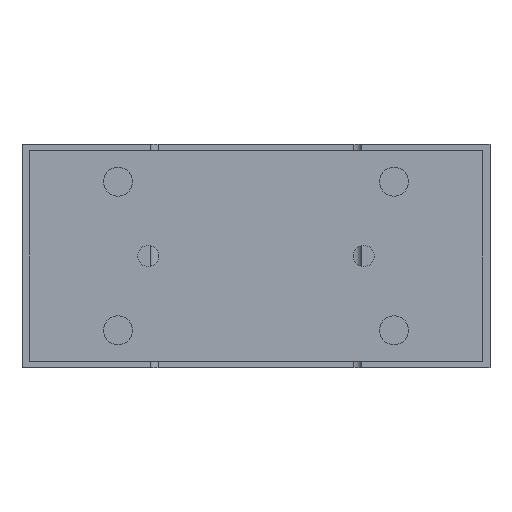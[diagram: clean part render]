
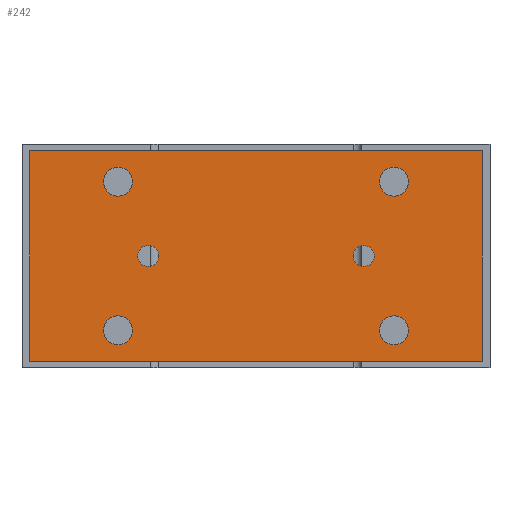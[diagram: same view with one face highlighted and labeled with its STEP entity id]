
A CAD part, left-side view. The second image highlights one B-rep face of the part: STEP entity #242.
In plain terms, the highlighted planar face has unit normal (-1, 0, 0).
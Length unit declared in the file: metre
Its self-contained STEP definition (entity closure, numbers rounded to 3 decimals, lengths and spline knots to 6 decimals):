
#242 = ADVANCED_FACE( '', ( #681, #682, #683, #684, #685, #686, #687 ), #688, .T. );
#681 = FACE_BOUND( '', #1481, .T. );
#682 = FACE_BOUND( '', #1482, .T. );
#683 = FACE_BOUND( '', #1483, .T. );
#684 = FACE_BOUND( '', #1484, .T. );
#685 = FACE_BOUND( '', #1485, .T. );
#686 = FACE_BOUND( '', #1486, .T. );
#687 = FACE_OUTER_BOUND( '', #1487, .T. );
#688 = PLANE( '', #1488 );
#1481 = EDGE_LOOP( '', ( #2269 ) );
#1482 = EDGE_LOOP( '', ( #2270 ) );
#1483 = EDGE_LOOP( '', ( #2271 ) );
#1484 = EDGE_LOOP( '', ( #2272 ) );
#1485 = EDGE_LOOP( '', ( #2273 ) );
#1486 = EDGE_LOOP( '', ( #2274 ) );
#1487 = EDGE_LOOP( '', ( #2275, #2276, #2277, #2278 ) );
#1488 = AXIS2_PLACEMENT_3D( '', #2279, #2280, #2281 );
#2269 = ORIENTED_EDGE( '', *, *, #3807, .F. );
#2270 = ORIENTED_EDGE( '', *, *, #3808, .F. );
#2271 = ORIENTED_EDGE( '', *, *, #3809, .F. );
#2272 = ORIENTED_EDGE( '', *, *, #3810, .F. );
#2273 = ORIENTED_EDGE( '', *, *, #3811, .F. );
#2274 = ORIENTED_EDGE( '', *, *, #3812, .T. );
#2275 = ORIENTED_EDGE( '', *, *, #3813, .T. );
#2276 = ORIENTED_EDGE( '', *, *, #3814, .T. );
#2277 = ORIENTED_EDGE( '', *, *, #3815, .T. );
#2278 = ORIENTED_EDGE( '', *, *, #3816, .T. );
#2279 = CARTESIAN_POINT( '', ( -0.118, -0.086, -0.0025 ) );
#2280 = DIRECTION( '', ( -1., 0., 0. ) );
#2281 = DIRECTION( '', ( 0., 0., 1. ) );
#3807 = EDGE_CURVE( '', #4370, #4370, #4371, .T. );
#3808 = EDGE_CURVE( '', #4372, #4372, #4373, .T. );
#3809 = EDGE_CURVE( '', #4374, #4374, #4375, .T. );
#3810 = EDGE_CURVE( '', #4376, #4376, #4377, .T. );
#3811 = EDGE_CURVE( '', #4378, #4378, #4379, .T. );
#3812 = EDGE_CURVE( '', #4380, #4380, #4381, .T. );
#3813 = EDGE_CURVE( '', #4382, #4383, #4384, .T. );
#3814 = EDGE_CURVE( '', #4383, #4385, #4386, .T. );
#3815 = EDGE_CURVE( '', #4385, #4387, #4388, .T. );
#3816 = EDGE_CURVE( '', #4387, #4382, #4389, .T. );
#4370 = VERTEX_POINT( '', #5201 );
#4371 = CIRCLE( '', #5202, 0.0055 );
#4372 = VERTEX_POINT( '', #5203 );
#4373 = CIRCLE( '', #5204, 0.0055 );
#4374 = VERTEX_POINT( '', #5205 );
#4375 = CIRCLE( '', #5206, 0.0055 );
#4376 = VERTEX_POINT( '', #5207 );
#4377 = CIRCLE( '', #5208, 0.0055 );
#4378 = VERTEX_POINT( '', #5209 );
#4379 = CIRCLE( '', #5210, 0.004 );
#4380 = VERTEX_POINT( '', #5211 );
#4381 = CIRCLE( '', #5212, 0.004 );
#4382 = VERTEX_POINT( '', #5213 );
#4383 = VERTEX_POINT( '', #5214 );
#4384 = LINE( '', #5215, #5216 );
#4385 = VERTEX_POINT( '', #5217 );
#4386 = LINE( '', #5218, #5219 );
#4387 = VERTEX_POINT( '', #5220 );
#4388 = LINE( '', #5221, #5222 );
#4389 = LINE( '', #5223, #5224 );
#5201 = CARTESIAN_POINT( '', ( -0.118, -0.0525, -0.06525 ) );
#5202 = AXIS2_PLACEMENT_3D( '', #6497, #6498, #6499 );
#5203 = CARTESIAN_POINT( '', ( -0.118, 0.0525, -0.06525 ) );
#5204 = AXIS2_PLACEMENT_3D( '', #6500, #6501, #6502 );
#5205 = CARTESIAN_POINT( '', ( -0.118, -0.0525, -0.00875 ) );
#5206 = AXIS2_PLACEMENT_3D( '', #6503, #6504, #6505 );
#5207 = CARTESIAN_POINT( '', ( -0.118, 0.0525, -0.00875 ) );
#5208 = AXIS2_PLACEMENT_3D( '', #6506, #6507, #6508 );
#5209 = CARTESIAN_POINT( '', ( -0.118, -0.037, -0.0425 ) );
#5210 = AXIS2_PLACEMENT_3D( '', #6509, #6510, #6511 );
#5211 = CARTESIAN_POINT( '', ( -0.118, 0.037, -0.0425 ) );
#5212 = AXIS2_PLACEMENT_3D( '', #6512, #6513, #6514 );
#5213 = CARTESIAN_POINT( '', ( -0.118, -0.086, -0.0825 ) );
#5214 = CARTESIAN_POINT( '', ( -0.118, -0.086, -0.0025 ) );
#5215 = CARTESIAN_POINT( '', ( -0.118, -0.086, -0.0825 ) );
#5216 = VECTOR( '', #6515, 1. );
#5217 = CARTESIAN_POINT( '', ( -0.118, 0.086, -0.0025 ) );
#5218 = CARTESIAN_POINT( '', ( -0.118, -0.086, -0.0025 ) );
#5219 = VECTOR( '', #6516, 1. );
#5220 = CARTESIAN_POINT( '', ( -0.118, 0.086, -0.0825 ) );
#5221 = CARTESIAN_POINT( '', ( -0.118, 0.086, -0.0025 ) );
#5222 = VECTOR( '', #6517, 1. );
#5223 = CARTESIAN_POINT( '', ( -0.118, 0.086, -0.0825 ) );
#5224 = VECTOR( '', #6518, 1. );
#6497 = CARTESIAN_POINT( '', ( -0.118, -0.0525, -0.07075 ) );
#6498 = DIRECTION( '', ( -1., 0., 0. ) );
#6499 = DIRECTION( '', ( 0., 0., 1. ) );
#6500 = CARTESIAN_POINT( '', ( -0.118, 0.0525, -0.07075 ) );
#6501 = DIRECTION( '', ( -1., 0., 0. ) );
#6502 = DIRECTION( '', ( 0., 0., 1. ) );
#6503 = CARTESIAN_POINT( '', ( -0.118, -0.0525, -0.01425 ) );
#6504 = DIRECTION( '', ( -1., 0., 0. ) );
#6505 = DIRECTION( '', ( 0., 0., 1. ) );
#6506 = CARTESIAN_POINT( '', ( -0.118, 0.0525, -0.01425 ) );
#6507 = DIRECTION( '', ( -1., 0., 0. ) );
#6508 = DIRECTION( '', ( 0., 0., 1. ) );
#6509 = CARTESIAN_POINT( '', ( -0.118, -0.041, -0.0425 ) );
#6510 = DIRECTION( '', ( -1., 0., 0. ) );
#6511 = DIRECTION( '', ( 0., 1., 0. ) );
#6512 = CARTESIAN_POINT( '', ( -0.118, 0.041, -0.0425 ) );
#6513 = DIRECTION( '', ( 1., 0., 0. ) );
#6514 = DIRECTION( '', ( 0., -1., 0. ) );
#6515 = DIRECTION( '', ( 0., 0., 1. ) );
#6516 = DIRECTION( '', ( 0., 1., 0. ) );
#6517 = DIRECTION( '', ( 0., 0., -1. ) );
#6518 = DIRECTION( '', ( 0., -1., 0. ) );
